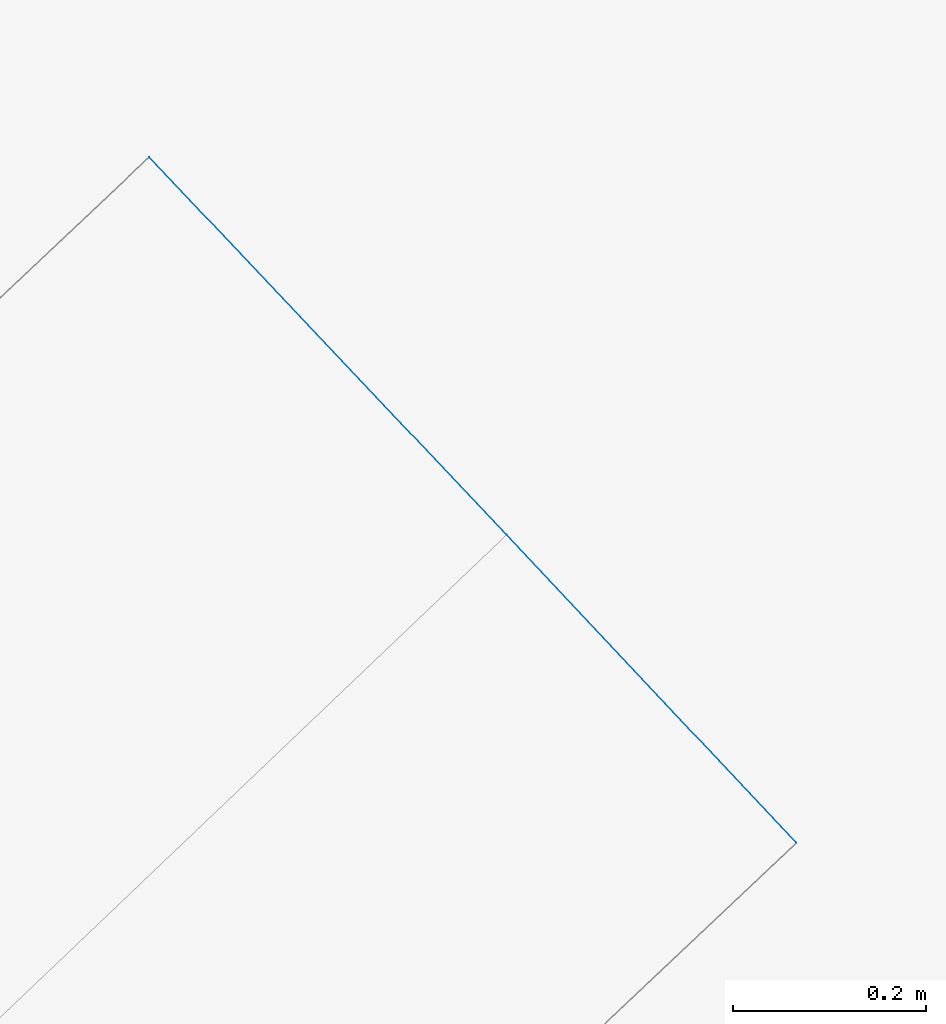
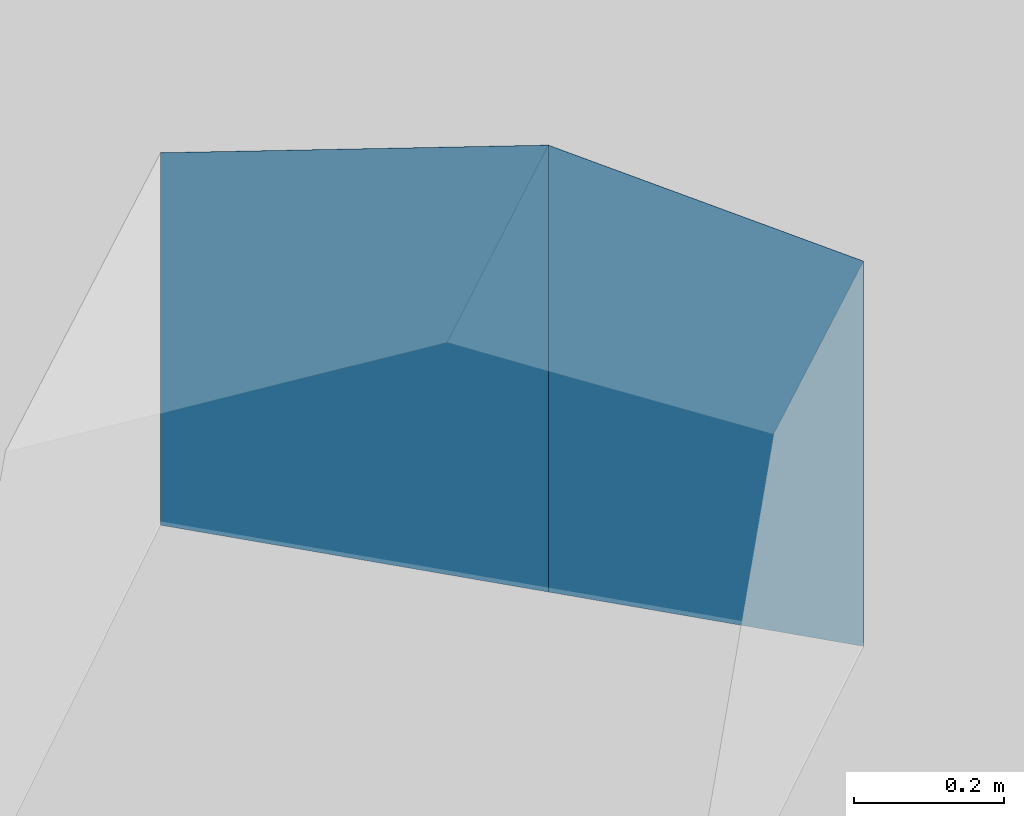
# Not in any storey, part 111 of 136: 2 walls.
"""IFC2X3 building model written with IfcOpenShell, lengths in metres."""

import ifcopenshell
import ifcopenshell.guid

model = None  # the IFC model being written
_history = None  # IfcOwnerHistory: only IFC2X3 demands one
_inside = {}  # id of a spatial element -> (the spatial element, [elements in it])
_under = {}  # id of a project, library or spatial element -> (it, [spatial elements below it])
_declared = {}  # id of a project -> (the project, [libraries it declares])
_typed = {}  # id of a type object -> (the type object, [elements of that type])
_made_of = {}  # id of a material, layer set ... -> (it, [elements and type objects made of it])


def new_model(schema):
    """Start an empty IFC model of exactly this schema.

    Asked for "IFC4X3", IfcOpenShell would pick the latest addendum, in which some entities
    have other attributes; the version numbers below select the first issue.
    IFC2X3 requires an IfcOwnerHistory on every rooted entity: one is made here for all.
    """
    global model, _history
    if schema == "IFC4X3":
        model = ifcopenshell.file(schema_version=(4, 3, 0, 0))
    else:
        model = ifcopenshell.file(schema=schema)
    _inside.clear()
    _under.clear()
    _declared.clear()
    _typed.clear()
    _made_of.clear()
    _history = None
    if model.schema == "IFC2X3":
        org = make("IfcOrganization", Name="unknown")
        user = make(
            "IfcPersonAndOrganization",
            ThePerson=make("IfcPerson", FamilyName="unknown"),
            TheOrganization=org,
        )
        app = make(
            "IfcApplication",
            ApplicationDeveloper=org,
            Version="unknown",
            ApplicationFullName="unknown",
            ApplicationIdentifier="unknown",
        )
        _history = make(
            "IfcOwnerHistory",
            OwningUser=user,
            OwningApplication=app,
            ChangeAction="ADDED",
            CreationDate=0,
        )
    return model


def make(cls, **values):
    """One entity of the class cls with the attributes given. An attribute that is None is left unset."""
    return model.create_entity(
        cls, **{name: value for name, value in values.items() if value is not None}
    )


def entity(cls, *values):
    """Any entity or typed value of the class cls, its attributes in the order of the schema. None: left unset."""
    e = model.create_entity(cls)
    for i, value in enumerate(values):
        if value is not None:
            e[i] = value
    return e


def rooted(cls, **values):
    """An entity with a GlobalId (a new one), such as an element, a storey or a relation."""
    return make(cls, GlobalId=ifcopenshell.guid.new(), OwnerHistory=_history, **values)


def si_unit(unit_type, name, prefix=None):
    """IfcSIUnit, for example si_unit("LENGTHUNIT", "METRE", prefix="MILLI")."""
    return make("IfcSIUnit", UnitType=unit_type, Prefix=prefix, Name=name)


def converted_unit(unit_type, name, factor, base, dimensions=None, offset=None):
    """IfcConversionBasedUnit, such as the inch: factor (a typed value) times the base unit."""
    return make(
        "IfcConversionBasedUnit"
        if offset is None
        else "IfcConversionBasedUnitWithOffset",
        ConversionOffset=offset,
        Dimensions=None
        if dimensions is None
        else entity("IfcDimensionalExponents", *dimensions),
        UnitType=unit_type,
        Name=name,
        ConversionFactor=make(
            "IfcMeasureWithUnit", ValueComponent=factor, UnitComponent=base
        ),
    )


def assignment(units):
    """IfcUnitAssignment: the units of a project."""
    return None if units is None else make("IfcUnitAssignment", Units=units)


def point(xyz):
    """IfcCartesianPoint."""
    return None if xyz is None else make("IfcCartesianPoint", Coordinates=xyz)


def direction(xyz):
    """IfcDirection."""
    return None if xyz is None else make("IfcDirection", DirectionRatios=xyz)


def frame(location, z_axis=None, x_axis=None):
    """IfcAxis2Placement3D, a coordinate frame: its origin and axes. An axis left out is left unset."""
    return make(
        "IfcAxis2Placement3D",
        Location=point(location),
        Axis=direction(z_axis),
        RefDirection=direction(x_axis),
    )


def origin():
    """The frame at (0, 0, 0) with its axes left unset."""
    return frame((0.0, 0.0, 0.0))


def place(relative_to, where):
    """IfcLocalPlacement: puts the frame where relative to a parent placement (None: the world)."""
    return make(
        "IfcLocalPlacement", PlacementRelTo=relative_to, RelativePlacement=where
    )


def context(
    kind, dimensions, precision=None, world=None, true_north=None, identifier=None
):
    """IfcGeometricRepresentationContext, for example the 3D "Model" context."""
    return make(
        "IfcGeometricRepresentationContext",
        ContextIdentifier=identifier,
        ContextType=kind,
        CoordinateSpaceDimension=dimensions,
        Precision=precision,
        WorldCoordinateSystem=world,
        TrueNorth=true_north,
    )


def subcontext(parent, identifier, kind, view, scale=None):
    """IfcGeometricRepresentationSubContext, for example "Body" below "Model"."""
    return make(
        "IfcGeometricRepresentationSubContext",
        ContextIdentifier=identifier,
        ContextType=kind,
        ParentContext=parent,
        TargetScale=scale,
        TargetView=view,
    )


def project(units=None, contexts=None):
    """IfcProject with its units and contexts."""
    return rooted(
        "IfcProject",
        Name="project",
        RepresentationContexts=contexts,
        UnitsInContext=assignment(units),
    )


def spatial(cls, under=None, at=None, **own):
    """A site, building, storey or space (cls), placed at a placement, below another one or the project."""
    s = rooted(cls, ObjectPlacement=at, **own)
    if under is not None:
        _under.setdefault(under.id(), (under, []))[1].append(s)
    return s


def faces_of(points, faces, orient=None, outer=None):
    """IfcFace entities. A face is a list of loops; a loop is a list of indices into points, from 0.

    orient and outer hold one flag for each loop. By default every Orientation is true, the
    first loop of a face is its IfcFaceOuterBound and the others are IfcFaceBound.
    """
    made = []
    for i, loops in enumerate(faces):
        bounds = []
        for j, loop in enumerate(loops):
            is_outer = j == 0 if outer is None else outer[i][j]
            bounds.append(
                make(
                    "IfcFaceOuterBound" if is_outer else "IfcFaceBound",
                    Bound=make("IfcPolyLoop", Polygon=[points[k] for k in loop]),
                    Orientation=True if orient is None else orient[i][j],
                )
            )
        made.append(make("IfcFace", Bounds=bounds))
    return made


def face_set(faces, orient=None, outer=None):
    """The faces of one IfcConnectedFaceSet. surface_model builds it on its shared points."""
    return ("IfcConnectedFaceSet", faces, orient, outer)


def surface_model(cls, points, shells):
    """IfcFaceBasedSurfaceModel or IfcShellBasedSurfaceModel (cls): surfaces that need not close."""
    shared = [point(p) for p in points]
    made = [make(c, CfsFaces=faces_of(shared, fs, o, b)) for c, fs, o, b in shells]
    if cls == "IfcFaceBasedSurfaceModel":
        return make(cls, FbsmFaces=made)
    return make(cls, SbsmBoundary=made)


def shape(context_of_items, identifier, shape_type, items):
    """IfcShapeRepresentation: the items that make up one representation, for example the "Body"."""
    return make(
        "IfcShapeRepresentation",
        ContextOfItems=context_of_items,
        RepresentationIdentifier=identifier,
        RepresentationType=shape_type,
        Items=items,
    )


def made_of(thing, what):
    """Note that an element or type object is made of a material, layer set ...; save() writes the relation."""
    if what is not None:
        _made_of.setdefault(what.id(), (what, []))[1].append(thing)
    return thing


def element(
    cls,
    number,
    at=None,
    inside=None,
    cuts=None,
    type_object=None,
    material=None,
    context=None,
    identifier="Body",
    shape_type=None,
    held_by="IfcProductDefinitionShape",
    body=None,
    shapes=None,
    **own,
):
    """One element of the class cls, such as IfcWall. Its Tag is "e" and its number.

    at: its placement. inside: the storey or other place that contains it. cuts: it is an
    opening in that element (IfcRelVoidsElement). A single representation is given by context,
    identifier, shape_type and body (its items); several are given by shapes. held_by: the class
    of the entity that holds the representations. save() writes the other relations.
    """
    e = rooted(cls, Tag="e%d" % number, ObjectPlacement=at, **own)
    if body is not None:
        shapes = [shape(context, identifier, shape_type, body)]
    if shapes is not None:
        e.Representation = make(held_by, Representations=shapes)
    if inside is not None:
        _inside.setdefault(inside.id(), (inside, []))[1].append(e)
    if cuts is not None:
        rooted(
            "IfcRelVoidsElement", RelatingBuildingElement=cuts, RelatedOpeningElement=e
        )
    if type_object is not None:
        _typed.setdefault(type_object.id(), (type_object, []))[1].append(e)
    return made_of(e, material)


def aggregate(whole, parts):
    """IfcRelAggregates: a whole, such as a stair, and the parts it consists of."""
    return rooted("IfcRelAggregates", RelatingObject=whole, RelatedObjects=parts)


def save(model, path):
    """Write the relations noted so far, then the file.

    IfcRelAggregates (storeys below a building ...), IfcRelContainedInSpatialStructure (elements
    in a storey), IfcRelDefinesByType, IfcRelAssociatesMaterial and IfcRelDeclares: one each for
    every whole, place, type object, material and project.
    """
    for whole, parts in _under.values():
        aggregate(whole, parts)
    for where, things in _inside.values():
        rooted(
            "IfcRelContainedInSpatialStructure",
            RelatedElements=things,
            RelatingStructure=where,
        )
    for kind, things in _typed.values():
        rooted("IfcRelDefinesByType", RelatedObjects=things, RelatingType=kind)
    for what, things in _made_of.values():
        rooted("IfcRelAssociatesMaterial", RelatedObjects=things, RelatingMaterial=what)
    for by, libraries in _declared.values():
        rooted("IfcRelDeclares", RelatingContext=by, RelatedDefinitions=libraries)
    model.write(path)


model = new_model("IFC2X3")

# Units and contexts
model_context = context("Model", 3, precision=1e-05, world=origin())
body_context = subcontext(model_context, "Body", "Model", "MODEL_VIEW")
ifc_project = project(units=[converted_unit("PLANEANGLEUNIT", "DEGREE", entity("IfcRatioMeasure", 0.0174532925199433), si_unit("PLANEANGLEUNIT", "RADIAN"), dimensions=[0, 0, 0, 0, 0, 0, 0]), si_unit("AREAUNIT", "SQUARE_METRE"), si_unit("LENGTHUNIT", "METRE")], contexts=[model_context])

# Site, building
site_placement = place(None, origin())
site = spatial("IfcSite", under=ifc_project, at=site_placement, Name="_site", CompositionType="ELEMENT")
building_placement = place(site_placement, origin())
building = spatial("IfcBuilding", under=site, at=building_placement, Name="_building", CompositionType="ELEMENT")

# Walls
wall_1_placement = place(building_placement, origin())
element("IfcWall", 1, at=wall_1_placement, inside=building, Name="Wall", context=body_context, shape_type="SurfaceModel", body=[
    surface_model("IfcFaceBasedSurfaceModel", [(4.01, 136.13, 51.44), (4.31, 135.811, 51.34), (4.31, 135.811, 50.714), (4.01, 136.13, 50.714)], [face_set([[[0, 1, 2, 3]]])]),
])
wall_2_placement = place(building_placement, origin())
element("IfcWall", 2, at=wall_2_placement, inside=building, Name="Wall", context=body_context, shape_type="SurfaceModel", body=[
    surface_model("IfcFaceBasedSurfaceModel", [(3.64, 136.521, 51.32), (4.01, 136.13, 51.44), (4.01, 136.13, 50.714), (3.64, 136.521, 50.715)], [face_set([[[0, 1, 2, 3]]])]),
])

save(model, "model.ifc")
